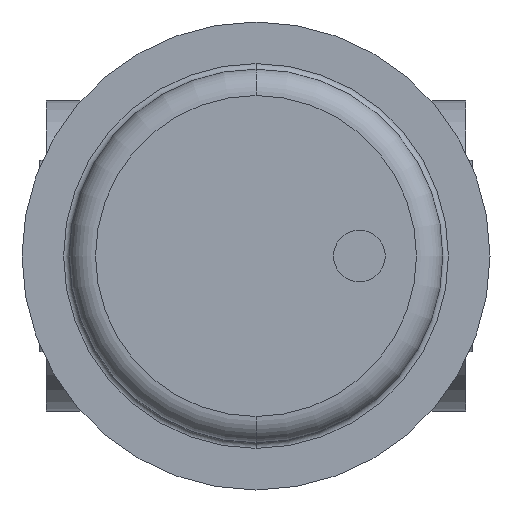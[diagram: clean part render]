
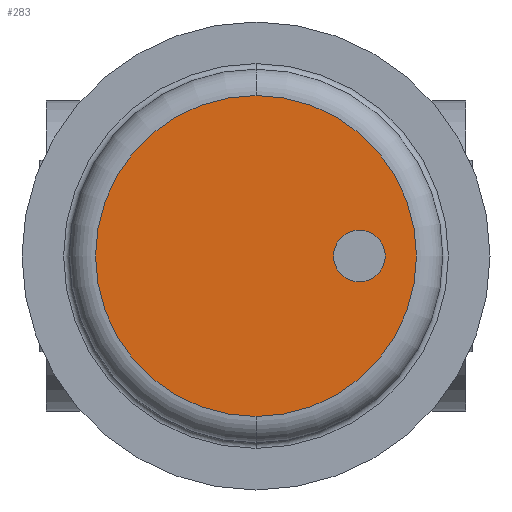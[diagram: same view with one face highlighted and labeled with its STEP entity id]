
A CAD part, front view. The second image highlights one B-rep face of the part: STEP entity #283.
In plain terms, the highlighted planar face has unit normal (0, -1, 0).
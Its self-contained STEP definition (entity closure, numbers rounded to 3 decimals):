
#283 = ADVANCED_FACE( '', ( #652, #653 ), #654, .T. );
#652 = FACE_BOUND( '', #1037, .T. );
#653 = FACE_OUTER_BOUND( '', #1038, .T. );
#654 = PLANE( '', #1039 );
#1037 = EDGE_LOOP( '', ( #2307, #2308 ) );
#1038 = EDGE_LOOP( '', ( #2309, #2310, #2311 ) );
#1039 = AXIS2_PLACEMENT_3D( '', #2312, #2313, #2314 );
#2307 = ORIENTED_EDGE( '', *, *, #2805, .T. );
#2308 = ORIENTED_EDGE( '', *, *, #2807, .T. );
#2309 = ORIENTED_EDGE( '', *, *, #2799, .F. );
#2310 = ORIENTED_EDGE( '', *, *, #2798, .F. );
#2311 = ORIENTED_EDGE( '', *, *, #2808, .F. );
#2312 = CARTESIAN_POINT( '', ( 157.688, -491., 0. ) );
#2313 = DIRECTION( '', ( 0., -1., 0. ) );
#2314 = DIRECTION( '', ( -1., 0., 0. ) );
#2798 = EDGE_CURVE( '', #3465, #3468, #3469, .T. );
#2799 = EDGE_CURVE( '', #3468, #3470, #3471, .T. );
#2805 = EDGE_CURVE( '', #3475, #3479, #3481, .T. );
#2807 = EDGE_CURVE( '', #3479, #3475, #3483, .T. );
#2808 = EDGE_CURVE( '', #3470, #3465, #3484, .T. );
#3465 = VERTEX_POINT( '', #4767 );
#3468 = VERTEX_POINT( '', #4770 );
#3469 = CIRCLE( '', #4771, 85.375 );
#3470 = VERTEX_POINT( '', #4772 );
#3471 = CIRCLE( '', #4773, 85.375 );
#3475 = VERTEX_POINT( '', #4777 );
#3479 = VERTEX_POINT( '', #4782 );
#3481 = CIRCLE( '', #4785, 13.75 );
#3483 = CIRCLE( '', #4787, 13.75 );
#3484 = CIRCLE( '', #4788, 85.375 );
#4767 = CARTESIAN_POINT( '', ( 115., -491., 85.375 ) );
#4770 = CARTESIAN_POINT( '', ( 200.375, -491., 0. ) );
#4771 = AXIS2_PLACEMENT_3D( '', #5680, #5681, #5682 );
#4772 = CARTESIAN_POINT( '', ( 115., -491., -85.375 ) );
#4773 = AXIS2_PLACEMENT_3D( '', #5683, #5684, #5685 );
#4777 = CARTESIAN_POINT( '', ( 183.75, -491., 0. ) );
#4782 = CARTESIAN_POINT( '', ( 156.25, -491., 0. ) );
#4785 = AXIS2_PLACEMENT_3D( '', #5697, #5698, #5699 );
#4787 = AXIS2_PLACEMENT_3D( '', #5703, #5704, #5705 );
#4788 = AXIS2_PLACEMENT_3D( '', #5706, #5707, #5708 );
#5680 = CARTESIAN_POINT( '', ( 115., -491., 0. ) );
#5681 = DIRECTION( '', ( 0., 1., 0. ) );
#5682 = DIRECTION( '', ( 1., 0., 0. ) );
#5683 = CARTESIAN_POINT( '', ( 115., -491., 0. ) );
#5684 = DIRECTION( '', ( 0., 1., 0. ) );
#5685 = DIRECTION( '', ( 1., 0., 0. ) );
#5697 = CARTESIAN_POINT( '', ( 170., -491., 0. ) );
#5698 = DIRECTION( '', ( 0., 1., 0. ) );
#5699 = DIRECTION( '', ( 1., 0., 0. ) );
#5703 = CARTESIAN_POINT( '', ( 170., -491., 0. ) );
#5704 = DIRECTION( '', ( 0., 1., 0. ) );
#5705 = DIRECTION( '', ( 1., 0., 0. ) );
#5706 = CARTESIAN_POINT( '', ( 115., -491., 0. ) );
#5707 = DIRECTION( '', ( 0., 1., 0. ) );
#5708 = DIRECTION( '', ( 1., 0., 0. ) );
